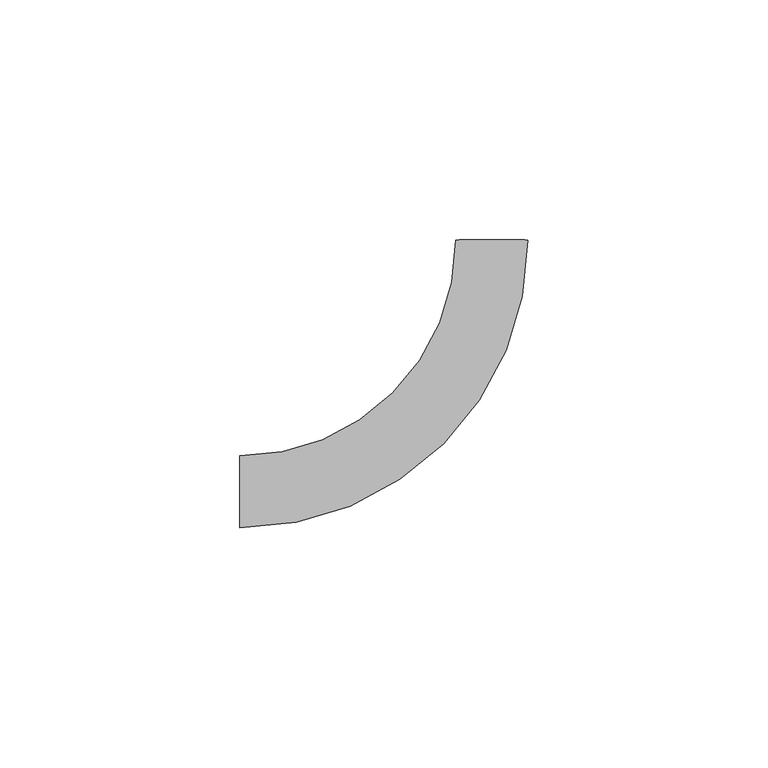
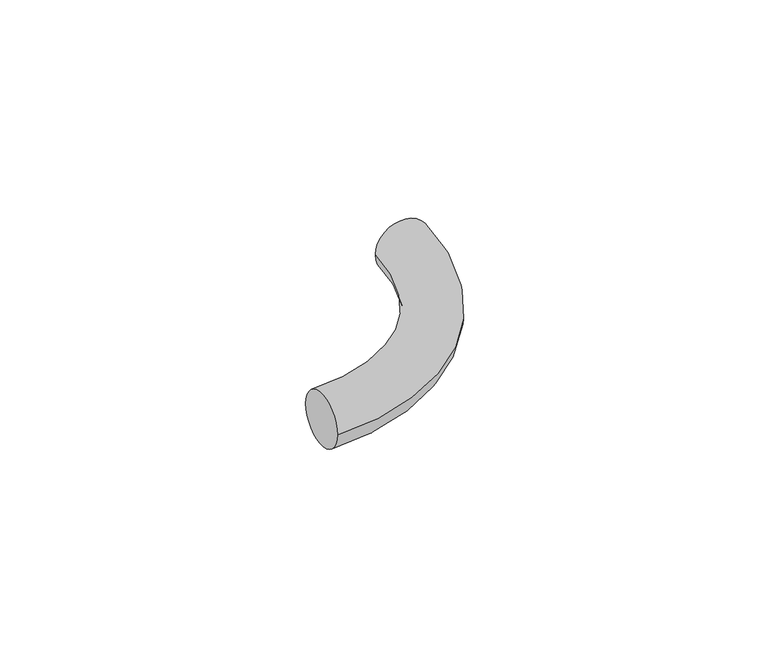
"""IFC4 building model written with IfcOpenShell, lengths in millimetres: pipe fitting geometry, РЕХАУ_Пресс Гнутая труба из нержавеющей стали : РЕХАУ_Гнутая труба из нержавеющей стали."""

from ifc_helpers import new_model, si_unit, point, frame, origin, place, context, project, spatial, circle_curve, ellipse_curve, trimmed, source, transform, mapped, element, save
from ifc_brep_helpers import plane_surface, revolved_surface, advanced_brep


def pipe_fitting_f6d37c49(model_context):
    return source(origin(), model_context, "Body", "AdvancedBrep", [
        advanced_brep(
        [(-52.5, -7.5, 0.0), (-52.5, 7.5, 0.0), (7.5, 52.5, 0.0), (-7.5, 52.5, 0.0)],
        [
            (0, 1, circle_curve(frame((-52.5, 0.0, 0.0), z_axis=(-1.0, 0.0, 0.0), x_axis=(0.0, 1.0, 0.0)), 7.5)),
            (1, 0, circle_curve(frame((-52.5, 0.0, 0.0), z_axis=(-1.0, 0.0, 0.0), x_axis=(0.0, 1.0, 0.0)), 7.5)),
            (2, 3, circle_curve(frame((0.0, 52.5, 0.0), z_axis=(0.0, 1.0, 0.0), x_axis=(-1.0, 0.0, 0.0)), 7.5)),
            (3, 2, circle_curve(frame((0.0, 52.5, 0.0), z_axis=(0.0, 1.0, 0.0), x_axis=(-1.0, 0.0, 0.0)), 7.5)),
            (3, 1, circle_curve(frame((-52.5, 52.5, 0.0), z_axis=(0.0, 0.0, -1.0), x_axis=(0.0, -1.0, 0.0)), 45.0)),
            (0, 2, circle_curve(frame((-52.5, 52.5, 0.0), z_axis=(0.0, 0.0, 1.0), x_axis=(0.0, -1.0, 0.0)), 60.0)),
        ],
        [
            plane_surface(frame((-52.5, 0.0, 0.0), z_axis=(-1.0, 0.0, 0.0), x_axis=(0.0, 0.0, 1.0))),
            plane_surface(frame((0.0, 52.5, 0.0), z_axis=(0.0, 1.0, 0.0), x_axis=(0.0, 0.0, 1.0))),
            revolved_surface(trimmed(ellipse_curve(frame((-52.5, 0.0, 0.0), z_axis=(-1.0, 0.0, 0.0), x_axis=(0.0, 1.0, 0.0)), 7.5, 7.5), [point((-52.5, -7.5, 0.0))], [point((-52.5, 7.5, 0.0))], True, "CARTESIAN"), (-52.5, 52.5, 0.0), (0.0, 0.0, 1.0)),
            revolved_surface(trimmed(ellipse_curve(frame((-52.5, 0.0, 0.0), z_axis=(-1.0, 0.0, 0.0), x_axis=(0.0, 1.0, 0.0)), 7.5, 7.5), [point((-52.5, 7.5, 0.0))], [point((-52.5, -7.5, 0.0))], True, "CARTESIAN"), (-52.5, 52.5, 0.0), (0.0, 0.0, 1.0)),
        ],
        [
            (0, [[1, 2]]),
            (1, [[3, 4]]),
            (2, [[5, -1, 6, -4]]),
            (3, [[-6, -2, -5, -3]]),
        ],
    ),
    ])


if __name__ == "__main__":
    model = new_model("IFC4")
    model_context = context("Model", 3, world=origin())
    ifc_project = project(units=[si_unit("LENGTHUNIT", "METRE", prefix="MILLI")], contexts=[model_context])
    site = spatial("IfcSite", under=ifc_project)
    building = spatial("IfcBuilding", under=site)
    placement = place(None, origin())
    pipe_fitting_shape = pipe_fitting_f6d37c49(model_context)
    element("IfcPipeFitting", 1, ObjectType="РЕХАУ_Пресс Гнутая труба из нержавеющей стали : РЕХАУ_Гнутая труба из нержавеющей стали", at=placement, inside=building, context=model_context, shape_type="MappedRepresentation", body=[
        mapped(pipe_fitting_shape, transform((0.0, 0.0, 0.0), x_axis=(1.0, 0.0, 0.0), y_axis=(0.0, 1.0, 0.0), z_axis=(0.0, 0.0, 1.0))),
    ])
    save(model, "model.ifc")
